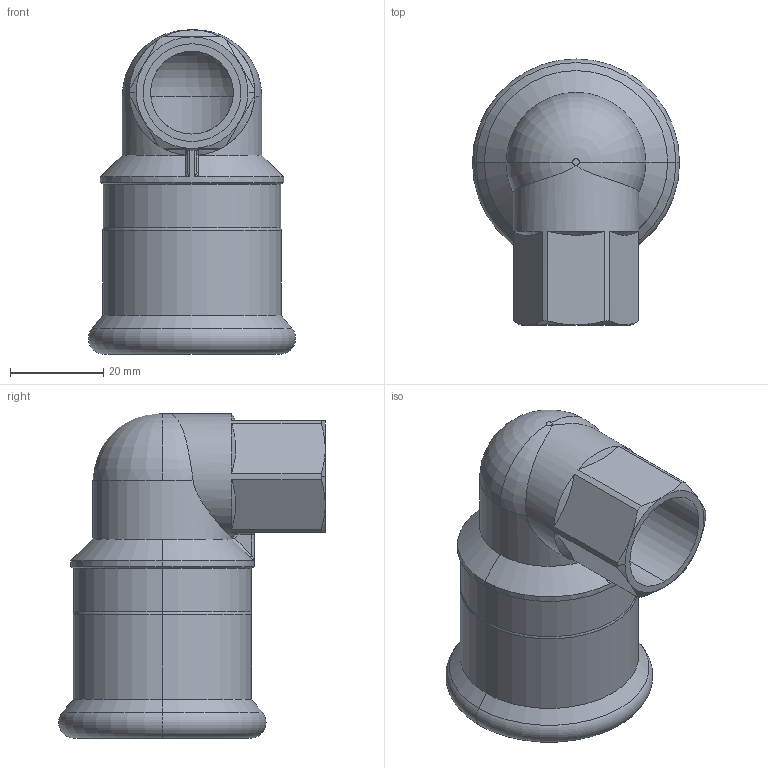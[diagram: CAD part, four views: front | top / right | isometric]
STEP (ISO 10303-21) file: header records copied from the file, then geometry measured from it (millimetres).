
FILE_DESCRIPTION(('Creo Elements/Direct Modeling STEP Export'),'2;1');
FILE_NAME('R2709 35xRp1-2.stp','2019-09-25T 8:32:50',(''),(''),'PTC Creo Elements/Direct Modeling STEP processor for AP214 (Solid Model)','PTC Creo Elements/Direct Modeling 19.0C 15-Aug-2015 (C) Parametric Technology GmbH','');
FILE_SCHEMA(('AUTOMOTIVE_DESIGN { 1 0 10303 214 1 1 1 1 }'));
Length unit declared in the file: millimetre
Products named in the file (1): R2709_35xRp1-2
Bounding box: 44.55 x 57.27 x 69.7 mm (x, y, z)
Volume: 23844.6 mm3; surface area: 19456 mm2
Topology: 1 solids, 1 shells, 139 faces, 344 edges, 212 vertices
Faces by surface type: plane 44, cylinder 39, cone 26, torus 16, bspline 14
Entity records: 10395 total; most frequent: CARTESIAN_POINT 7459, ORIENTED_EDGE 688, DIRECTION 490, EDGE_CURVE 344, VERTEX_POINT 212, AXIS2_PLACEMENT_3D 180, EDGE_LOOP 154, FACE_OUTER_BOUND 139
